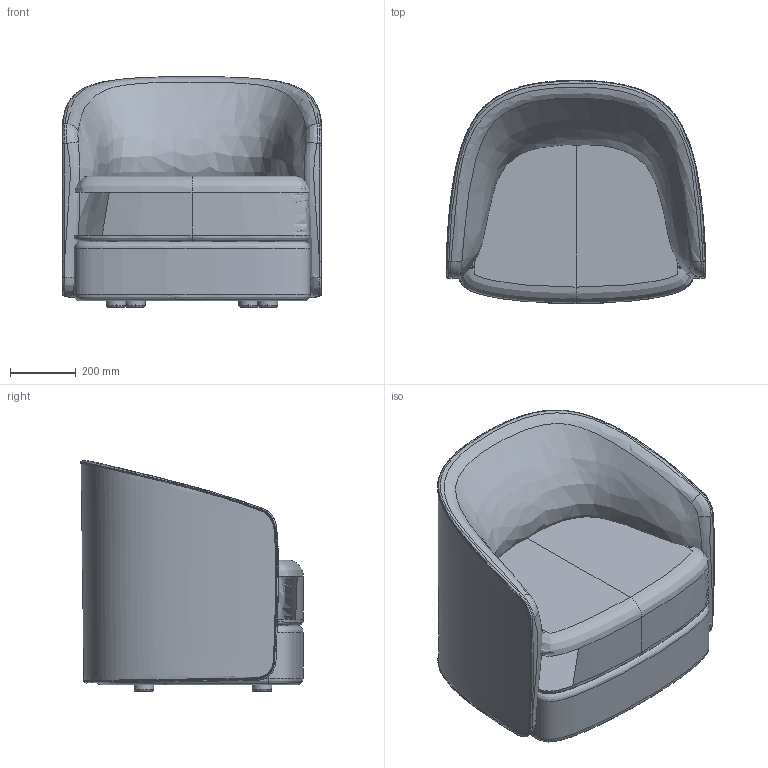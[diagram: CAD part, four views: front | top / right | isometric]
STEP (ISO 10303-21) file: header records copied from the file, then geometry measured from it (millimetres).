
FILE_DESCRIPTION(/* description */ (''),/* implementation_level */ '2;1');
FILE_NAME(/* name */ 'Covent Lounge Chair',/* time_stamp */ '2019-04-16T16:45:19+02:00',/* author */ (''),/* organization */ (''),/* preprocessor_version */ 'ST-DEVELOPER v15',/* originating_system */ '',/* authorisation */ '');
FILE_SCHEMA (('AUTOMOTIVE_DESIGN'));
Length unit declared in the file: millimetre
Products named in the file (5): Document; Block 01; Block 02; Block 03; Block 04
Assembly tree (4 placements, depth 2):
  Document
    Block 01
    Block 02
    Block 03
    Block 04
Bounding box: 791.38 x 679.19 x 703.25 mm (x, y, z)
Volume: 104090.3 mm3; surface area: 4984135.6 mm2
Topology: 5 solids, 20 shells, 112 faces, 285 edges, 178 vertices
Faces by surface type: bspline 98, plane 14
Entity records: 45201 total; most frequent: CARTESIAN_POINT 43345, ORIENTED_EDGE 488, EDGE_CURVE 284, VERTEX_POINT 176, B_SPLINE_CURVE_WITH_KNOTS 164, ADVANCED_FACE 112, FACE_OUTER_BOUND 112, EDGE_LOOP 112
